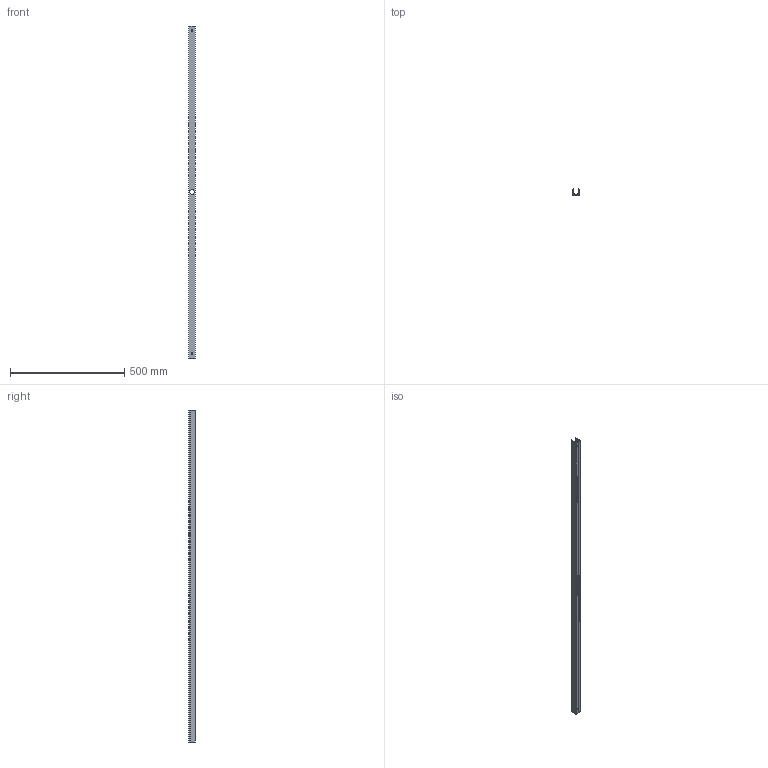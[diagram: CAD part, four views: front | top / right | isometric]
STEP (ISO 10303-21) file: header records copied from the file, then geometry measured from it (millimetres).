
FILE_DESCRIPTION(/* description */ ('Unknown'),/* implementation_level */ '2;1');
FILE_NAME(/* name */ '98474',/* time_stamp */ '2023-02-07T04:36:02-05:00',/* author */ ('Unknown'),/* organization */ ('Unknown'),/* preprocessor_version */ 'ST-DEVELOPER v18.1',/* originating_system */ 'Solid Edge',/* authorisation */ 'Unknown');
FILE_SCHEMA (('AUTOMOTIVE_DESIGN {1 0 10303 214 3 1 1}'));
Length unit declared in the file: millimetre
Products named in the file (1): L-PR0048
Bounding box: 28 x 29.79 x 1453 mm (x, y, z)
Volume: 224994.9 mm3; surface area: 292093.9 mm2
Topology: 1 solids, 1 shells, 103 faces, 312 edges, 208 vertices
Faces by surface type: cylinder 60, plane 43
Full cylindrical faces by diameter (mm): 6 x2, 20 x1
Entity records: 3584 total; most frequent: CARTESIAN_POINT 767, ORIENTED_EDGE 606, DIRECTION 578, EDGE_CURVE 303, AXIS2_PLACEMENT_3D 208, VERTEX_POINT 203, LINE 162, VECTOR 162
